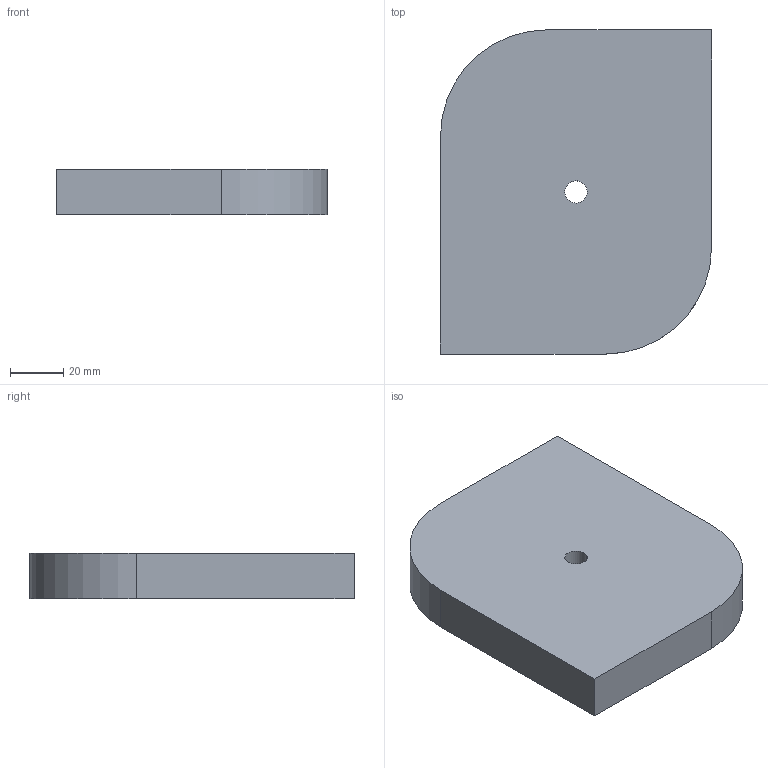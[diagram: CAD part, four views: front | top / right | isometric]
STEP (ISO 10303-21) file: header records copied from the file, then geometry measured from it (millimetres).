
FILE_DESCRIPTION(('CATIA V5 STEP Exchange'),'2;1');
FILE_NAME('C:\_Andres\UNIVERSIDAD\IQS\ASIGNATURAS\DAO\EXF\EXF-15161c\1original\Hoque_Tumanguil_Ej01-plano_v12.stp','2016-03-04T14:59:45+00:00',('none'),('none'),'CATIA Version 5 Release 20 SP 1 (IN-10)','CATIA V5 STEP AP203','none');
FILE_SCHEMA(('CONFIG_CONTROL_DESIGN'));
Length unit declared in the file: millimetre
Products named in the file (1): Hoque_Tumanguil_Ej01-plano_v12
Bounding box: 102 x 122 x 17 mm (x, y, z)
Volume: 198936.9 mm3; surface area: 30884 mm2
Topology: 1 solids, 1 shells, 10 faces, 24 edges, 16 vertices
Faces by surface type: plane 6, cylinder 4
Entity records: 333 total; most frequent: CARTESIAN_POINT 51, ORIENTED_EDGE 48, DIRECTION 44, EDGE_CURVE 24, AXIS2_PLACEMENT_3D 19, VECTOR 16, LINE 16, VERTEX_POINT 16
